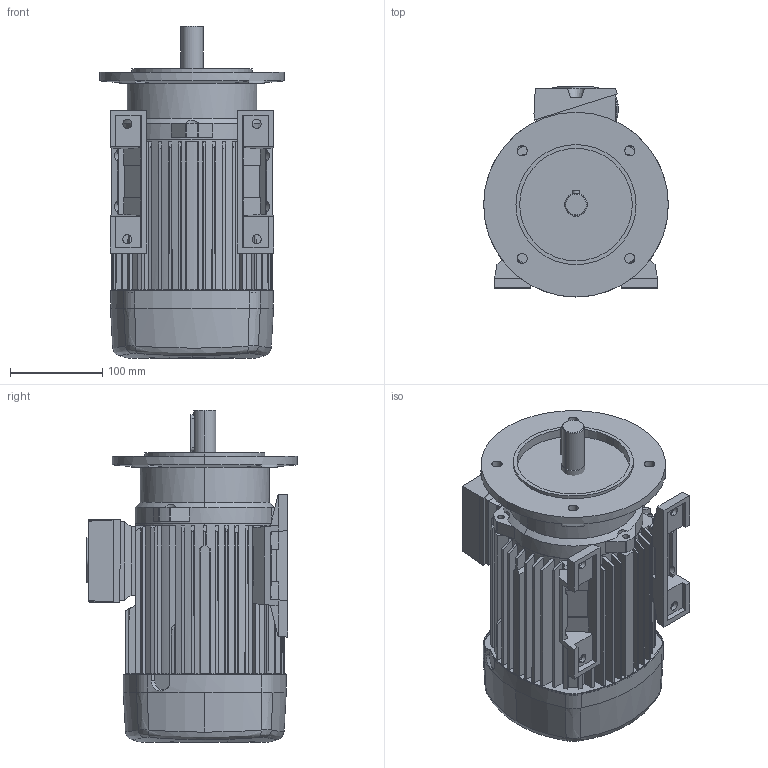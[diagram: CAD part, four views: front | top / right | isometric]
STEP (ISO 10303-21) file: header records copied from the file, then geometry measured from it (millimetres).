
FILE_DESCRIPTION (( 'STEP AP214' ), '1' );
FILE_NAME ('K_R_GF90S-90L(V)_B35FF165_24x50.STEP', '2017-04-06T06:39:24', ( '' ), ( '' ), 'SwSTEP 2.0', 'SolidWorks 2013', '' );
FILE_SCHEMA (( 'AUTOMOTIVE_DESIGN' ));
Length unit declared in the file: millimetre
Products named in the file (9): Verschluß_Kat; KA05_Kat; LF_FF_B5K_klein_LF10 FF165; GF90S_90L_V_Kat; K_R_GF90S-90L(V)_B35FF165_24x50; WE_B5K_Kat_24x50; LHB_Kat_LHB09; KA05_komplett_Kat; KD05_Kat
Assembly tree (8 placements, depth 3):
  K_R_GF90S-90L(V)_B35FF165_24x50
    GF90S_90L_V_Kat
    LF_FF_B5K_klein_LF10 FF165
    KA05_komplett_Kat
      KA05_Kat
      Verschluß_Kat
      KD05_Kat
    LHB_Kat_LHB09
    WE_B5K_Kat_24x50
Bounding box: 200 x 227.61 x 359.5 mm (x, y, z)
Volume: 7053237.9 mm3; surface area: 561834.1 mm2
Topology: 12 solids, 12 shells, 595 faces, 1562 edges, 1002 vertices
Faces by surface type: plane 394, cylinder 99, cone 90, bspline 8, sphere 2, torus 2
Entity records: 23601 total; most frequent: CARTESIAN_POINT 5011, ORIENTED_EDGE 3124, DIRECTION 2838, EDGE_CURVE 1562, VERTEX_POINT 1002, AXIS2_PLACEMENT_3D 960, LINE 918, VECTOR 918
